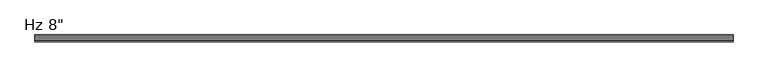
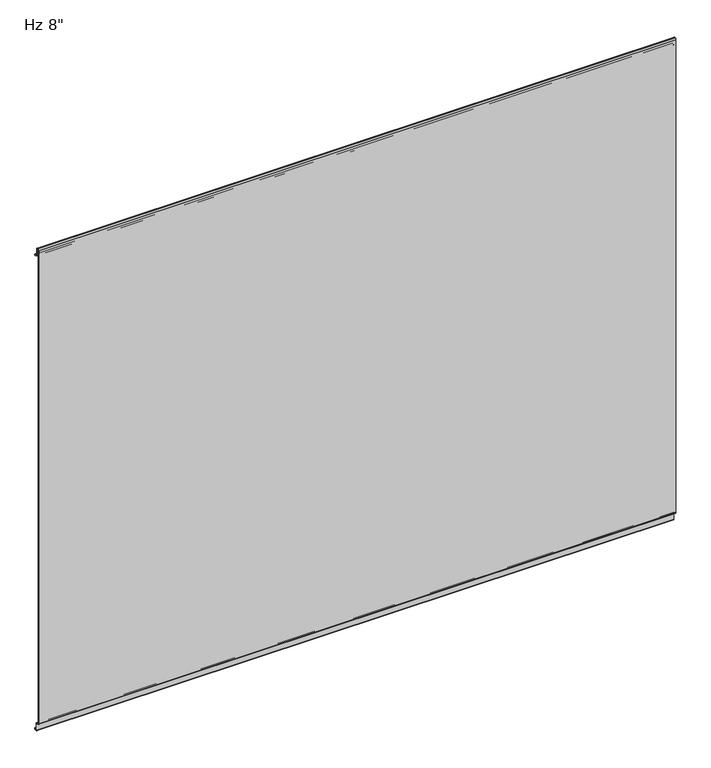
"""IFC4 building model written with IfcOpenShell, lengths in millimetres: plate geometry."""

from ifc_helpers import new_model, si_unit, frame, origin, place, context, project, spatial, polyline, circle_curve, source, transform, mapped, element, save
from ifc_brep_helpers import plane_surface, cylinder_surface, revolved_surface, advanced_brep


def plate_2a786ad6(model_context):
    return source(origin(), model_context, "Body", "AdvancedBrep", [
        advanced_brep(
        [(-730.0, -200.2223811, 3.8501063), (-730.0, -197.9308685, 3.8501063), (-730.0, -193.9535232, -0.1272391), (-730.0, -193.9535232, -15.7237514), (-730.0, -193.365666, -16.3116086), (-730.0, -190.2941346, -16.3116086), (-730.0, -189.7062635, -15.7237374), (-730.0, -189.7062635, -13.3687064), (-730.0, -188.7062599, -13.3687064), (-730.0, -188.7062599, -15.7237419), (-730.0, -190.2941364, -17.3116185), (-730.0, -193.3656851, -17.3116185), (-730.0, -194.9535616, -15.7237419), (-730.0, -194.9535616, -0.1273159), (-730.0, -197.9308302, 2.8499526), (-730.0, -200.222714, 2.8499526), (-730.0, -203.1999825, 5.8272211), (-730.0, -203.2, 1150.8100652), (-730.0, -200.2227315, 1153.7873337), (-730.0, -199.1806329, 1153.7873337), (-730.0, -196.2033644, 1150.8100652), (-730.0, -196.2033644, 1136.6216801), (-730.0, -194.6154878, 1135.0338036), (-730.0, -190.2950697, 1135.0338036), (-730.0, -188.7066023, 1133.3929042), (-730.0, -188.7066023, 1131.0482432), (-730.0, -189.7060472, 1131.0482432), (-730.0, -189.7060472, 1133.4253599), (-730.0, -190.2950842, 1134.0338971), (-730.0, -194.6153166, 1134.0338971), (-730.0, -197.2030166, 1136.6215971), (-730.0, -197.2030166, 1150.8107568), (-730.0, -199.180978, 1152.7887182), (-730.0, -200.22341, 1152.7887182), (-730.0, -202.1992912, 1150.812837), (-730.0, -202.1992912, 5.8270163), (730.0, -200.2223811, 3.8501063), (730.0, -202.1992912, 5.8270163), (730.0, -202.1992912, 1150.812837), (730.0, -200.22341, 1152.7887182), (730.0, -199.180978, 1152.7887182), (730.0, -197.2030166, 1150.8107568), (730.0, -197.2030166, 1136.6215971), (730.0, -194.6153166, 1134.0338971), (730.0, -190.2950842, 1134.0338971), (730.0, -189.7060472, 1133.4253599), (730.0, -189.7060472, 1131.0482432), (730.0, -188.7066023, 1131.0482432), (730.0, -188.7066023, 1133.3929042), (730.0, -190.2950697, 1135.0338036), (730.0, -194.6154878, 1135.0338036), (730.0, -196.2033644, 1136.6216801), (730.0, -196.2033644, 1150.8100652), (730.0, -199.1806329, 1153.7873337), (730.0, -200.2227315, 1153.7873337), (730.0, -203.2, 1150.8100652), (730.0, -203.2, 5.8272211), (730.0, -200.222714, 2.8499526), (730.0, -197.9308302, 2.8499526), (730.0, -194.9535616, -0.1273159), (730.0, -194.9535616, -15.7237419), (730.0, -193.3656851, -17.3116185), (730.0, -190.2941364, -17.3116185), (730.0, -188.7062599, -15.7237419), (730.0, -188.7062599, -13.3687064), (730.0, -189.7062635, -13.3687064), (730.0, -189.7062635, -15.7237374), (730.0, -190.2941346, -16.3116086), (730.0, -193.365666, -16.3116086), (730.0, -193.9535232, -15.7237514), (730.0, -193.9535232, -0.1272391), (730.0, -197.9308685, 3.8501063)],
        [
            (0, 1),
            (1, 2, circle_curve(frame((-730.0, -197.9308685, -0.1272391), z_axis=(-1.0, 0.0, 0.0), x_axis=(0.0, 0.0, -1.0)), 3.9773454)),
            (2, 3),
            (3, 4, circle_curve(frame((-730.0, -193.365666, -15.7237514), z_axis=(1.0, 0.0, 0.0), x_axis=(0.0, 0.0, -1.0)), 0.5878572)),
            (4, 5),
            (5, 6, circle_curve(frame((-730.0, -190.2941346, -15.7237374), z_axis=(1.0, 0.0, 0.0), x_axis=(0.0, 0.0, -1.0)), 0.5878711)),
            (6, 7),
            (7, 8),
            (8, 9),
            (9, 10, circle_curve(frame((-730.0, -190.2941364, -15.7237419), z_axis=(-1.0, 0.0, 0.0), x_axis=(0.0, 0.0, -1.0)), 1.5878765)),
            (10, 11),
            (11, 12, circle_curve(frame((-730.0, -193.3656851, -15.7237419), z_axis=(-1.0, 0.0, 0.0), x_axis=(0.0, 0.0, -1.0)), 1.5878765)),
            (12, 13),
            (13, 14, circle_curve(frame((-730.0, -197.9308302, -0.1273159), z_axis=(1.0, 0.0, 0.0), x_axis=(0.0, 0.0, -1.0)), 2.9772685)),
            (14, 15),
            (15, 16, circle_curve(frame((-730.0, -200.222714, 5.8272211), z_axis=(-1.0, 0.0, 0.0), x_axis=(0.0, 0.0, -1.0)), 2.9772685)),
            (16, 17),
            (17, 18, circle_curve(frame((-730.0, -200.2227315, 1150.8100652), z_axis=(-1.0, 0.0, 0.0), x_axis=(0.0, 0.0, -1.0)), 2.9772685)),
            (18, 19),
            (19, 20, circle_curve(frame((-730.0, -199.1806329, 1150.8100652), z_axis=(-1.0, 0.0, 0.0), x_axis=(0.0, 0.0, -1.0)), 2.9772685)),
            (20, 21),
            (21, 22, circle_curve(frame((-730.0, -194.6154878, 1136.6216801), z_axis=(1.0, 0.0, 0.0), x_axis=(0.0, 0.0, -1.0)), 1.5878765)),
            (22, 23),
            (23, 24, circle_curve(frame((-730.0, -190.2950697, 1133.4444985), z_axis=(-1.0, 0.0, 0.0), x_axis=(0.0, 0.0, -1.0)), 1.5893051)),
            (24, 25),
            (25, 26),
            (26, 27),
            (27, 28, circle_curve(frame((-730.0, -190.2950842, 1133.4445477), z_axis=(1.0, 0.0, 0.0), x_axis=(0.0, 0.0, -1.0)), 0.5893495)),
            (28, 29),
            (29, 30, circle_curve(frame((-730.0, -194.6153166, 1136.6215971), z_axis=(-1.0, 0.0, 0.0), x_axis=(0.0, 0.0, -1.0)), 2.5877)),
            (30, 31),
            (31, 32, circle_curve(frame((-730.0, -199.180978, 1150.8107568), z_axis=(1.0, 0.0, 0.0), x_axis=(0.0, 0.0, -1.0)), 1.9779614)),
            (32, 33),
            (33, 34, circle_curve(frame((-730.0, -200.22341, 1150.812837), z_axis=(1.0, 0.0, 0.0), x_axis=(0.0, 0.0, -1.0)), 1.9758812)),
            (34, 35),
            (35, 0, circle_curve(frame((-730.0, -200.2223811, 5.8270163), z_axis=(1.0, 0.0, 0.0), x_axis=(0.0, 0.0, -1.0)), 1.9769101)),
            (36, 37, circle_curve(frame((730.0, -200.2223811, 5.8270163), z_axis=(-1.0, 0.0, 0.0), x_axis=(0.0, 0.0, -1.0)), 1.9769101)),
            (37, 38),
            (38, 39, circle_curve(frame((730.0, -200.22341, 1150.812837), z_axis=(-1.0, 0.0, 0.0), x_axis=(0.0, 0.0, -1.0)), 1.9758812)),
            (39, 40),
            (40, 41, circle_curve(frame((730.0, -199.180978, 1150.8107568), z_axis=(-1.0, 0.0, 0.0), x_axis=(0.0, 0.0, -1.0)), 1.9779614)),
            (41, 42),
            (42, 43, circle_curve(frame((730.0, -194.6153166, 1136.6215971), z_axis=(1.0, 0.0, 0.0), x_axis=(0.0, 0.0, -1.0)), 2.5877)),
            (43, 44),
            (44, 45, circle_curve(frame((730.0, -190.2950842, 1133.4445477), z_axis=(-1.0, 0.0, 0.0), x_axis=(0.0, 0.0, -1.0)), 0.5893495)),
            (45, 46),
            (46, 47),
            (47, 48),
            (48, 49, circle_curve(frame((730.0, -190.2950697, 1133.4444985), z_axis=(1.0, 0.0, 0.0), x_axis=(0.0, 0.0, -1.0)), 1.5893051)),
            (49, 50),
            (50, 51, circle_curve(frame((730.0, -194.6154878, 1136.6216801), z_axis=(-1.0, 0.0, 0.0), x_axis=(0.0, 0.0, -1.0)), 1.5878765)),
            (51, 52),
            (52, 53, circle_curve(frame((730.0, -199.1806329, 1150.8100652), z_axis=(1.0, 0.0, 0.0), x_axis=(0.0, 0.0, -1.0)), 2.9772685)),
            (53, 54),
            (54, 55, circle_curve(frame((730.0, -200.2227315, 1150.8100652), z_axis=(1.0, 0.0, 0.0), x_axis=(0.0, 0.0, -1.0)), 2.9772685)),
            (55, 56),
            (56, 57, circle_curve(frame((730.0, -200.222714, 5.8272211), z_axis=(1.0, 0.0, 0.0), x_axis=(0.0, 0.0, -1.0)), 2.9772685)),
            (57, 58),
            (58, 59, circle_curve(frame((730.0, -197.9308302, -0.1273159), z_axis=(-1.0, 0.0, 0.0), x_axis=(0.0, 0.0, -1.0)), 2.9772685)),
            (59, 60),
            (60, 61, circle_curve(frame((730.0, -193.3656851, -15.7237419), z_axis=(1.0, 0.0, 0.0), x_axis=(0.0, 0.0, -1.0)), 1.5878765)),
            (61, 62),
            (62, 63, circle_curve(frame((730.0, -190.2941364, -15.7237419), z_axis=(1.0, 0.0, 0.0), x_axis=(0.0, 0.0, -1.0)), 1.5878765)),
            (63, 64),
            (64, 65),
            (65, 66),
            (66, 67, circle_curve(frame((730.0, -190.2941346, -15.7237374), z_axis=(-1.0, 0.0, 0.0), x_axis=(0.0, 0.0, -1.0)), 0.5878711)),
            (67, 68),
            (68, 69, circle_curve(frame((730.0, -193.365666, -15.7237514), z_axis=(-1.0, 0.0, 0.0), x_axis=(0.0, 0.0, -1.0)), 0.5878572)),
            (69, 70),
            (70, 71, circle_curve(frame((730.0, -197.9308685, -0.1272391), z_axis=(1.0, 0.0, 0.0), x_axis=(0.0, 0.0, -1.0)), 3.9773454)),
            (71, 36),
            (35, 37),
            (36, 0),
            (34, 38),
            (33, 39),
            (32, 40),
            (31, 41),
            (30, 42),
            (29, 43),
            (28, 44),
            (27, 45),
            (26, 46),
            (25, 47),
            (24, 48),
            (23, 49),
            (22, 50),
            (21, 51),
            (20, 52),
            (19, 53),
            (18, 54),
            (17, 55),
            (16, 56),
            (15, 57),
            (14, 58),
            (13, 59),
            (12, 60),
            (11, 61),
            (10, 62),
            (9, 63),
            (8, 64),
            (7, 65),
            (6, 66),
            (5, 67),
            (4, 68),
            (3, 69),
            (2, 70),
            (1, 71),
        ],
        [
            plane_surface(frame((-730.0, -203.2, 576.2625), z_axis=(-1.0, 0.0, 0.0), x_axis=(0.0, -1.0, 0.0))),
            plane_surface(frame((730.0, -203.2, 576.2625), z_axis=(1.0, 0.0, 0.0), x_axis=(0.0, -1.0, 0.0))),
            revolved_surface(polyline([(730.0, -200.2223811, 3.8501062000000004), (-730.0, -200.2223811, 3.8501062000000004)]), (-730.0, -200.2223811, 5.8270163), (1.0, 0.0, 0.0)),
            plane_surface(frame((-730.0, -202.1992912, 5.8270163), z_axis=(0.0, 1.0, 0.0), x_axis=(1.0, 0.0, 0.0))),
            revolved_surface(polyline([(730.0, -200.22341, 1148.8369558), (-730.0, -200.22341, 1148.8369558)]), (-730.0, -200.22341, 1150.812837), (1.0, 0.0, 0.0)),
            plane_surface(frame((-730.0, -200.22341, 1152.7887182), z_axis=(0.0, 0.0, -1.0), x_axis=(1.0, 0.0, 0.0))),
            revolved_surface(polyline([(730.0, -199.180978, 1148.8327954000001), (-730.0, -199.180978, 1148.8327954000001)]), (-730.0, -199.180978, 1150.8107568), (1.0, 0.0, 0.0)),
            plane_surface(frame((-730.0, -197.2030166, 1150.8107568), z_axis=(0.0, -1.0, 0.0), x_axis=(1.0, 0.0, 0.0))),
            cylinder_surface(frame((-730.0, -194.6153166, 1136.6215971), z_axis=(-1.0, 0.0, 0.0), x_axis=(0.0, 0.0, -1.0)), 2.5877),
            plane_surface(frame((-730.0, -194.6153166, 1134.0338971), z_axis=(0.0, 0.0, -1.0), x_axis=(1.0, 0.0, 0.0))),
            revolved_surface(polyline([(730.0, -190.2950842, 1132.8551982), (-730.0, -190.2950842, 1132.8551982)]), (-730.0, -190.2950842, 1133.4445477), (1.0, 0.0, 0.0)),
            plane_surface(frame((-730.0, -189.7060472, 1133.4253599), z_axis=(0.0, -1.0, 0.0), x_axis=(1.0, 0.0, 0.0))),
            plane_surface(frame((-730.0, -189.7060472, 1131.0482432), z_axis=(0.0, 0.0, -1.0), x_axis=(1.0, 0.0, 0.0))),
            plane_surface(frame((-730.0, -188.7066023, 1131.0482432), z_axis=(0.0, 1.0, 0.0), x_axis=(1.0, 0.0, 0.0))),
            cylinder_surface(frame((-730.0, -190.2950697, 1133.4444985), z_axis=(-1.0, 0.0, 0.0), x_axis=(0.0, 0.0, -1.0)), 1.5893051),
            plane_surface(frame((-730.0, -190.2950697, 1135.0338036), z_axis=(0.0, 0.0, 1.0), x_axis=(1.0, 0.0, 0.0))),
            revolved_surface(polyline([(730.0, -194.6154878, 1135.0338036), (-730.0, -194.6154878, 1135.0338036)]), (-730.0, -194.6154878, 1136.6216801), (1.0, 0.0, 0.0)),
            plane_surface(frame((-730.0, -196.2033644, 1136.6216801), z_axis=(0.0, 1.0, 0.0), x_axis=(1.0, 0.0, 0.0))),
            cylinder_surface(frame((-730.0, -199.1806329, 1150.8100652), z_axis=(-1.0, 0.0, 0.0), x_axis=(0.0, 0.0, -1.0)), 2.9772685),
            plane_surface(frame((-730.0, -199.1806329, 1153.7873337), z_axis=(0.0, 0.0, 1.0), x_axis=(1.0, 0.0, 0.0))),
            cylinder_surface(frame((-730.0, -200.2227315, 1150.8100652), z_axis=(-1.0, 0.0, 0.0), x_axis=(0.0, 0.0, -1.0)), 2.9772685),
            plane_surface(frame((-730.0, -203.2, 1150.8100652), z_axis=(0.0, -1.0, 0.0), x_axis=(1.0, 0.0, 0.0))),
            cylinder_surface(frame((-730.0, -200.222714, 5.8272211), z_axis=(-1.0, 0.0, 0.0), x_axis=(0.0, 0.0, -1.0)), 2.9772685),
            plane_surface(frame((-730.0, -200.222714, 2.8499526), z_axis=(0.0, 0.0, -1.0), x_axis=(1.0, 0.0, 0.0))),
            revolved_surface(polyline([(730.0, -197.9308302, -3.1045844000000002), (-730.0, -197.9308302, -3.1045844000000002)]), (-730.0, -197.9308302, -0.1273159), (1.0, 0.0, 0.0)),
            plane_surface(frame((-730.0, -194.9535616, -0.1273159), z_axis=(0.0, -1.0, 0.0), x_axis=(1.0, 0.0, 0.0))),
            cylinder_surface(frame((-730.0, -193.3656851, -15.7237419), z_axis=(-1.0, 0.0, 0.0), x_axis=(0.0, 0.0, -1.0)), 1.5878765),
            plane_surface(frame((-730.0, -193.3656851, -17.3116185), z_axis=(0.0, 0.0, -1.0), x_axis=(1.0, 0.0, 0.0))),
            cylinder_surface(frame((-730.0, -190.2941364, -15.7237419), z_axis=(-1.0, 0.0, 0.0), x_axis=(0.0, 0.0, -1.0)), 1.5878765),
            plane_surface(frame((-730.0, -188.7062599, -15.7237419), z_axis=(0.0, 1.0, 0.0), x_axis=(1.0, 0.0, 0.0))),
            plane_surface(frame((-730.0, -188.7062599, -13.3687064), z_axis=(0.0, 0.0, 1.0), x_axis=(1.0, 0.0, 0.0))),
            plane_surface(frame((-730.0, -189.7062635, -13.3687064), z_axis=(0.0, -1.0, 0.0), x_axis=(1.0, 0.0, 0.0))),
            revolved_surface(polyline([(730.0, -190.2941346, -16.3116085), (-730.0, -190.2941346, -16.3116085)]), (-730.0, -190.2941346, -15.7237374), (1.0, 0.0, 0.0)),
            plane_surface(frame((-730.0, -190.2941346, -16.3116086), z_axis=(0.0, 0.0, 1.0), x_axis=(1.0, 0.0, 0.0))),
            revolved_surface(polyline([(730.0, -193.365666, -16.3116086), (-730.0, -193.365666, -16.3116086)]), (-730.0, -193.365666, -15.7237514), (1.0, 0.0, 0.0)),
            plane_surface(frame((-730.0, -193.9535232, -15.7237514), z_axis=(0.0, 1.0, 0.0), x_axis=(1.0, 0.0, 0.0))),
            cylinder_surface(frame((-730.0, -197.9308685, -0.1272391), z_axis=(-1.0, 0.0, 0.0), x_axis=(0.0, 0.0, -1.0)), 3.9773454),
            plane_surface(frame((-730.0, -197.9308685, 3.8501063), z_axis=(0.0, 0.0, 1.0), x_axis=(1.0, 0.0, 0.0))),
        ],
        [
            (0, [[1, 2, 3, 4, 5, 6, 7, 8, 9, 10, 11, 12, 13, 14, 15, 16, 17, 18, 19, 20, 21, 22, 23, 24, 25, 26, 27, 28, 29, 30, 31, 32, 33, 34, 35, 36]]),
            (1, [[37, 38, 39, 40, 41, 42, 43, 44, 45, 46, 47, 48, 49, 50, 51, 52, 53, 54, 55, 56, 57, 58, 59, 60, 61, 62, 63, 64, 65, 66, 67, 68, 69, 70, 71, 72]]),
            (2, [[73, -37, 74, -36]]),
            (3, [[75, -38, -73, -35]]),
            (4, [[76, -39, -75, -34]]),
            (5, [[77, -40, -76, -33]]),
            (6, [[78, -41, -77, -32]]),
            (7, [[79, -42, -78, -31]]),
            (8, [[80, -43, -79, -30]]),
            (9, [[81, -44, -80, -29]]),
            (10, [[82, -45, -81, -28]]),
            (11, [[83, -46, -82, -27]]),
            (12, [[84, -47, -83, -26]]),
            (13, [[85, -48, -84, -25]]),
            (14, [[86, -49, -85, -24]]),
            (15, [[87, -50, -86, -23]]),
            (16, [[88, -51, -87, -22]]),
            (17, [[89, -52, -88, -21]]),
            (18, [[90, -53, -89, -20]]),
            (19, [[91, -54, -90, -19]]),
            (20, [[92, -55, -91, -18]]),
            (21, [[93, -56, -92, -17]]),
            (22, [[94, -57, -93, -16]]),
            (23, [[95, -58, -94, -15]]),
            (24, [[96, -59, -95, -14]]),
            (25, [[97, -60, -96, -13]]),
            (26, [[98, -61, -97, -12]]),
            (27, [[99, -62, -98, -11]]),
            (28, [[100, -63, -99, -10]]),
            (29, [[101, -64, -100, -9]]),
            (30, [[102, -65, -101, -8]]),
            (31, [[103, -66, -102, -7]]),
            (32, [[104, -67, -103, -6]]),
            (33, [[105, -68, -104, -5]]),
            (34, [[106, -69, -105, -4]]),
            (35, [[107, -70, -106, -3]]),
            (36, [[108, -71, -107, -2]]),
            (37, [[-74, -72, -108, -1]]),
        ],
    ),
    ])


if __name__ == "__main__":
    model = new_model("IFC4")
    model_context = context("Model", 3, world=origin())
    ifc_project = project(units=[si_unit("LENGTHUNIT", "METRE", prefix="MILLI")], contexts=[model_context])
    site = spatial("IfcSite", under=ifc_project)
    building = spatial("IfcBuilding", under=site)
    placement = place(None, origin())
    plate_shape = plate_2a786ad6(model_context)
    element("IfcPlate", 1, ObjectType="KIP-SLI-FLI-R19-CP-Hz-FL_SL : Hz 8\"", at=placement, inside=building, context=model_context, shape_type="MappedRepresentation", body=[
        mapped(plate_shape, transform((0.0, 0.0, 0.0), x_axis=(1.0, 0.0, 0.0), y_axis=(0.0, 1.0, 0.0), z_axis=(0.0, 0.0, 1.0))),
    ])
    save(model, "model.ifc")
